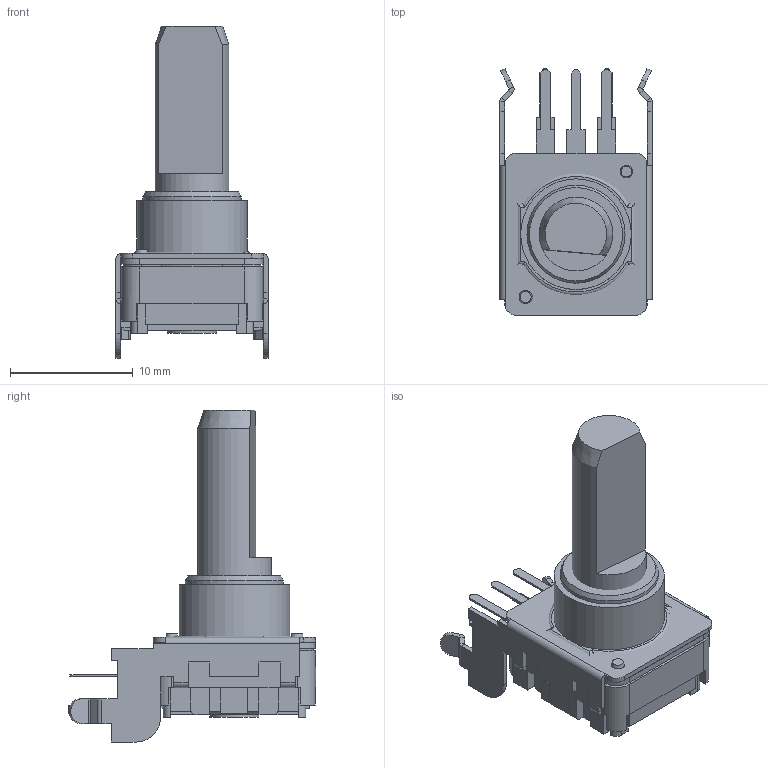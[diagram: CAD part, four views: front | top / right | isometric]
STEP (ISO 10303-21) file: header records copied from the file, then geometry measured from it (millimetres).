
FILE_DESCRIPTION(/* description */ (''),/* implementation_level */ '2;1');
FILE_NAME(/* name */ '\\Forward-ks-ad\開發專區\\X2\9AD896C45EE08A2D8A088AB2\X0\\設計機種開發作業\\X2\91CF75226A5F7A2E5C086848\X0\\ENCODER\機種開發\Encoder\DC12K\3D\CTS\DC12S12207F001.stp',/* time_stamp */ '2020-06-17T11:00:02+08:00',/* author */ ('jia'),/* organization */ (''),/* preprocessor_version */ 'ST-DEVELOPER v15.2',/* originating_system */ 'Autodesk Inventor 2014',/* authorisation */ '');
FILE_SCHEMA (('AUTOMOTIVE_DESIGN { 1 0 10303 214 3 1 1 }'));
Length unit declared in the file: millimetre
Products named in the file (1): 組合1_Shrinkwrap_1
Bounding box: 12.4 x 20.1 x 27.01 mm (x, y, z)
Surface area: 2145.1 mm2 (no closed solid volume)
Topology: 0 solids, 21 shells, 307 faces, 870 edges, 570 vertices
Faces by surface type: plane 248, cylinder 53, cone 4, torus 2
Full cylindrical faces by diameter (mm): 4 x1, 6 x1, 7.98 x1, 9 x1
Entity records: 9723 total; most frequent: CARTESIAN_POINT 1815, DIRECTION 1610, ORIENTED_EDGE 1541, EDGE_CURVE 862, LINE 710, VECTOR 710, VERTEX_POINT 569, AXIS2_PLACEMENT_3D 450
